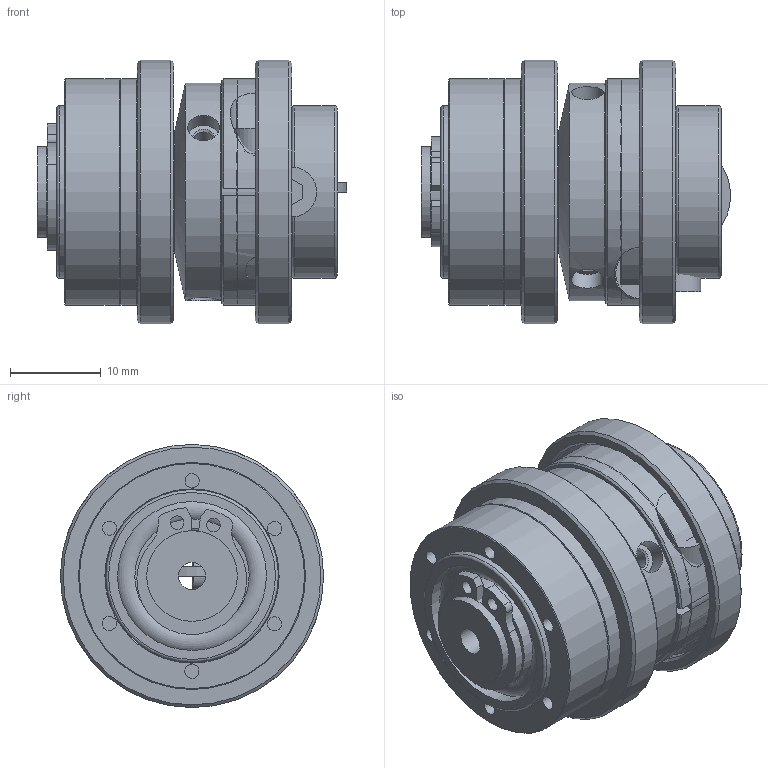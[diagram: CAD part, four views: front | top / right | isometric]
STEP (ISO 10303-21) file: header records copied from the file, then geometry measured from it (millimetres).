
FILE_DESCRIPTION( ( 'Unknown' ), '1' );
FILE_NAME( 'C:/Dokumente und Einstellungen/Sven/Desktop/hp kbk/KBK L-K-2.stp', 'Unknown', ( 'Unknown' ), ( 'Unknown' ), 'XStep 1.0', 'Unknown', ' ' );
FILE_SCHEMA( ( 'automotive_design' ) );
Length unit declared in the file: millimetre
Products named in the file (12): Assem1; Assem2; ball_bearing_-_61800_0_01; ball_bearing_-_61800_0_02; ball_bearing_-_61800_0_03; Grundkörper L-K-2; Klemmnabe 2; Flansch 2; Stellring 2; a_10; Druckring 2; Zylinderschraube DIN 912_0
Bounding box: 34.05 x 29 x 29 mm (x, y, z)
Volume: 23402 mm3; surface area: 22533.3 mm2
Topology: 23 solids, 23 shells, 293 faces, 618 edges, 399 vertices
Faces by surface type: cylinder 110, plane 104, cone 54, torus 25
Full cylindrical faces by diameter (mm): 1.5 x4, 1.567 x12, 2.013 x6, 2.459 x2, 3 x4, 3.2 x2, 3.5 x6, 5.5 x2, 9.6 x2, 10 x7, 12 x4, 12.6 x6, 13 x4, 16.4 x6, 17 x2, 19 x5, 24 x2, 25 x4, 26 x2, 29 x2
Entity records: 3947 total; most frequent: CARTESIAN_POINT 918, DIRECTION 610, ORIENTED_EDGE 406, AXIS2_PLACEMENT_3D 278, EDGE_LOOP 249, EDGE_CURVE 203, FACE_OUTER_BOUND 184, VERTEX_POINT 170
